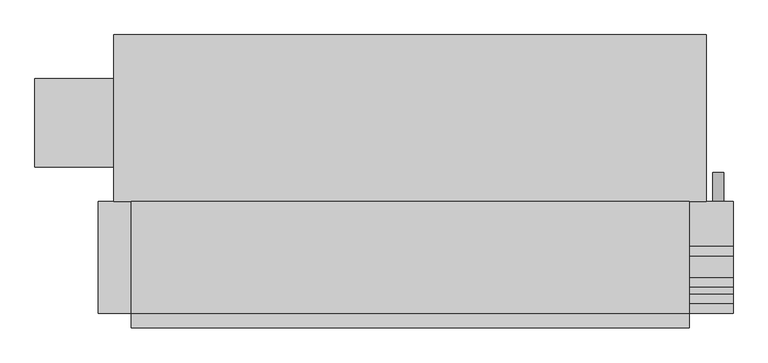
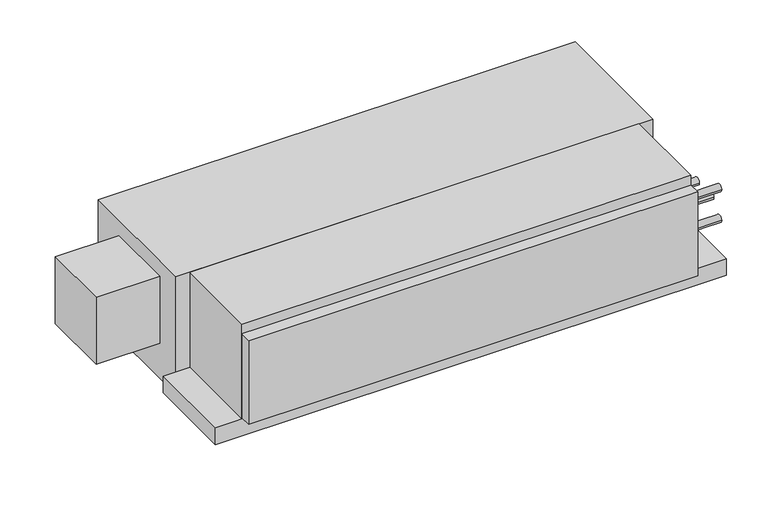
"""IFC4 building model written with IfcOpenShell, lengths in millimetres: proxy geometry, Concealed_Horizontal_Fan_Coil_Unit_With_Plenum_-_42CEA_-_CARRIER_-_4-Pipe_RH_2022 : Size 08 - 277v/60Hz/1Ph - 4/1 Coil."""

from ifc_helpers import new_model, si_unit, point, frame, frame_2d, origin, place, context, project, spatial, polyline, circle_curve, trimmed, segment, composite_curve, outline, extrude, source, transform, mapped, element, save


def mechanical_equipment_1d446d9b(model_context):
    return source(origin(), model_context, "Body", "SweptSolid", [
        extrude(outline(composite_curve([segment(trimmed(circle_curve(frame_2d((-241.3, 685.8)), 9.525), [point((-241.3, 676.275))], [point((-241.3, 695.325))], False, "CARTESIAN"), True, "CONTINUOUS"), segment(trimmed(circle_curve(frame_2d((-241.3, 685.8)), 9.525), [point((-241.3, 695.325))], [point((-241.3, 676.275))], False, "CARTESIAN"), True, "CONTINUOUS")], self_intersect=False)), frame((0.0, -141.2875, 0.0), z_axis=(0.0, 1.0, 0.0), x_axis=(0.0, 0.0, 1.0)), (0.0, 0.0, 1.0), 50.8),
        extrude(outline(composite_curve([segment(trimmed(circle_curve(frame_2d((-309.5625, -69.85)), 7.9375), [point((-317.5, -69.85))], [point((-301.625, -69.85))], False, "CARTESIAN"), True, "CONTINUOUS"), segment(trimmed(circle_curve(frame_2d((-309.5625, -69.85)), 7.9375), [point((-301.625, -69.85))], [point((-317.5, -69.85))], False, "CARTESIAN"), True, "CONTINUOUS")], self_intersect=False)), frame((635.0, 0.0, 0.0), z_axis=(1.0, 0.0, 0.0), x_axis=(0.0, 1.0, 0.0)), (0.0, 0.0, 1.0), 76.2),
        extrude(outline(composite_curve([segment(trimmed(circle_curve(frame_2d((-309.5625, -139.7)), 7.9375), [point((-317.5, -139.7))], [point((-301.625, -139.7))], False, "CARTESIAN"), True, "CONTINUOUS"), segment(trimmed(circle_curve(frame_2d((-309.5625, -139.7)), 7.9375), [point((-301.625, -139.7))], [point((-317.5, -139.7))], False, "CARTESIAN"), True, "CONTINUOUS")], self_intersect=False)), frame((635.0, 0.0, 0.0), z_axis=(1.0, 0.0, 0.0), x_axis=(0.0, 1.0, 0.0)), (0.0, 0.0, 1.0), 76.2),
        extrude(outline(composite_curve([segment(trimmed(circle_curve(frame_2d((-227.0125, -104.775)), 7.9375), [point((-234.95, -104.775))], [point((-219.075, -104.775))], False, "CARTESIAN"), True, "CONTINUOUS"), segment(trimmed(circle_curve(frame_2d((-227.0125, -104.775)), 7.9375), [point((-219.075, -104.775))], [point((-234.95, -104.775))], False, "CARTESIAN"), True, "CONTINUOUS")], self_intersect=False)), frame((635.0, 0.0, 0.0), z_axis=(1.0, 0.0, 0.0), x_axis=(0.0, 1.0, 0.0)), (0.0, 0.0, 1.0), 76.2),
        extrude(outline(composite_curve([segment(trimmed(circle_curve(frame_2d((-280.9875, -104.775)), 7.9375), [point((-288.925, -104.775))], [point((-273.05, -104.775))], False, "CARTESIAN"), True, "CONTINUOUS"), segment(trimmed(circle_curve(frame_2d((-280.9875, -104.775)), 7.9375), [point((-273.05, -104.775))], [point((-288.925, -104.775))], False, "CARTESIAN"), True, "CONTINUOUS")], self_intersect=False)), frame((635.0, 0.0, 0.0), z_axis=(1.0, 0.0, 0.0), x_axis=(0.0, 1.0, 0.0)), (0.0, 0.0, 1.0), 76.2),
        extrude(outline(polyline([(635.0, -334.9625), (635.0, -360.3625), (-330.2, -360.3625), (-330.2, -334.9625), (635.0, -334.9625)])), frame((0.0, 0.0, -212.725), z_axis=(0.0, 0.0, 1.0), x_axis=(1.0, 0.0, 0.0)), (0.0, 0.0, 1.0), 190.5),
        extrude(outline(polyline([(635.0, -334.9625), (-330.2, -334.9625), (-330.2, -141.2875), (635.0, -141.2875), (635.0, -334.9625)])), frame((0.0, 0.0, -215.9), z_axis=(0.0, 0.0, 1.0), x_axis=(1.0, 0.0, 0.0)), (0.0, 0.0, 1.0), 215.9),
        extrude(outline(polyline([(711.2, -141.2875), (711.2, -334.9625), (-387.35, -334.9625), (-387.35, -141.2875), (711.2, -141.2875)])), frame((0.0, 0.0, -254.0), z_axis=(0.0, 0.0, 1.0), x_axis=(1.0, 0.0, 0.0)), (0.0, 0.0, 1.0), 38.1),
        extrude(outline(polyline([(-496.8875, -80.9625), (-496.8875, 71.4375), (-360.3625, 71.4375), (-360.3625, -80.9625), (-496.8875, -80.9625)])), frame((0.0, 0.0, -187.325), z_axis=(0.0, 0.0, 1.0), x_axis=(1.0, 0.0, 0.0)), (0.0, 0.0, 1.0), 152.4),
        extrude(outline(polyline([(-360.3625, 147.6375), (665.1625, 147.6375), (665.1625, -141.2875), (-360.3625, -141.2875), (-360.3625, 147.6375)])), frame((0.0, 0.0, -266.7), z_axis=(0.0, 0.0, 1.0), x_axis=(1.0, 0.0, 0.0)), (0.0, 0.0, 1.0), 266.7),
    ])


if __name__ == "__main__":
    model = new_model("IFC4")
    model_context = context("Model", 3, world=origin())
    ifc_project = project(units=[si_unit("LENGTHUNIT", "METRE", prefix="MILLI")], contexts=[model_context])
    site = spatial("IfcSite", under=ifc_project)
    building = spatial("IfcBuilding", under=site)
    placement = place(None, origin())
    mechanical_equipment_shape = mechanical_equipment_1d446d9b(model_context)
    element("IfcBuildingElementProxy", 1, Name="Concealed_Horizontal_Fan_Coil_Unit_With_Plenum_-_42CEA_-_CARRIER_-_4-Pipe_RH_2022 : Size 08 - 277v/60Hz/1Ph - 4/1 Coil", ObjectType="Concealed_Horizontal_Fan_Coil_Unit_With_Plenum_-_42CEA_-_CARRIER_-_4-Pipe_RH_2022 : Size 08 - 277v/60Hz/1Ph - 4/1 Coil", at=placement, inside=building, context=model_context, shape_type="MappedRepresentation", body=[
        mapped(mechanical_equipment_shape, transform((0.0, 0.0, 0.0), x_axis=(1.0, 0.0, 0.0), y_axis=(0.0, 1.0, 0.0), z_axis=(0.0, 0.0, 1.0))),
    ])
    save(model, "model.ifc")
